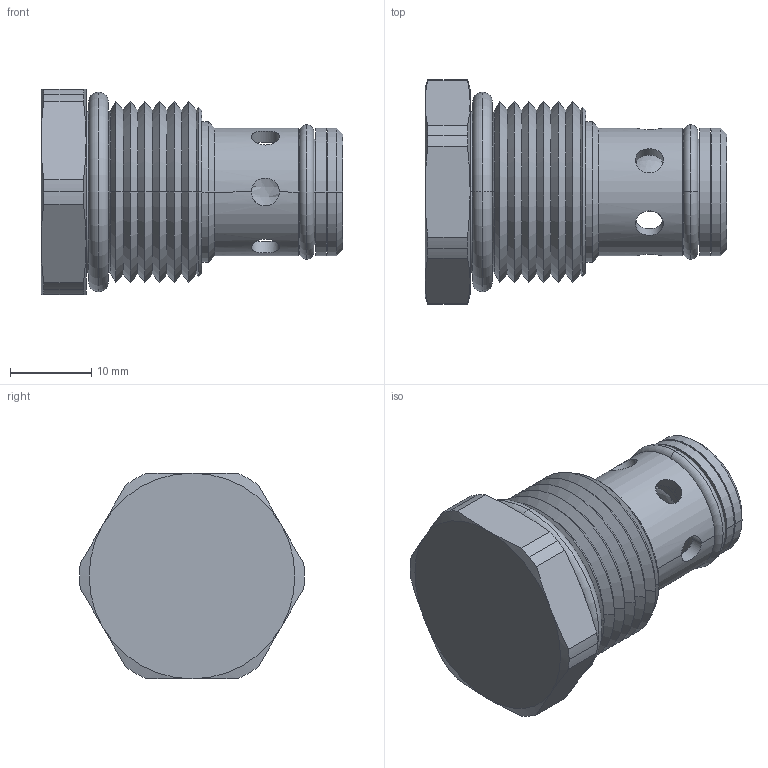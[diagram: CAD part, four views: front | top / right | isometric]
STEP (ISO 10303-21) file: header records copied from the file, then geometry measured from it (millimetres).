
FILE_DESCRIPTION((''),'2;1');
FILE_NAME('U:\Solid model CD\Solid model full\Proportional\STEP\DECVB00-3D Full.stp','2008-07-28T15:59:03',('Dan'),(''),'Autodesk Inventor 9','Autodesk Inventor 9','');
FILE_SCHEMA(('AUTOMOTIVE_DESIGN { 1 0 10303 214 1 1 1 1 }'));
Length unit declared in the file: inch
Products named in the file (5): DECVB00-3D Full; DECVB00-3D Full1; DECVB00-3D Full2; DECVB00-3D Full3; DECVB00-3D Full4
Assembly tree (4 placements, depth 2):
  DECVB00-3D Full
    DECVB00-3D Full1
    DECVB00-3D Full2
    DECVB00-3D Full3
    DECVB00-3D Full4
Bounding box: 37.26 x 27.76 x 25.4 mm (x, y, z)
Volume: 11239.6 mm3; surface area: 5621.9 mm2
Topology: 4 solids, 4 shells, 121 faces, 300 edges, 179 vertices
Faces by surface type: cylinder 44, cone 44, plane 17, torus 8, bspline 4, sphere 4
Entity records: 4208 total; most frequent: CARTESIAN_POINT 1245, DIRECTION 634, ORIENTED_EDGE 588, EDGE_CURVE 294, AXIS2_PLACEMENT_3D 274, VERTEX_POINT 177, CIRCLE 148, EDGE_LOOP 139
